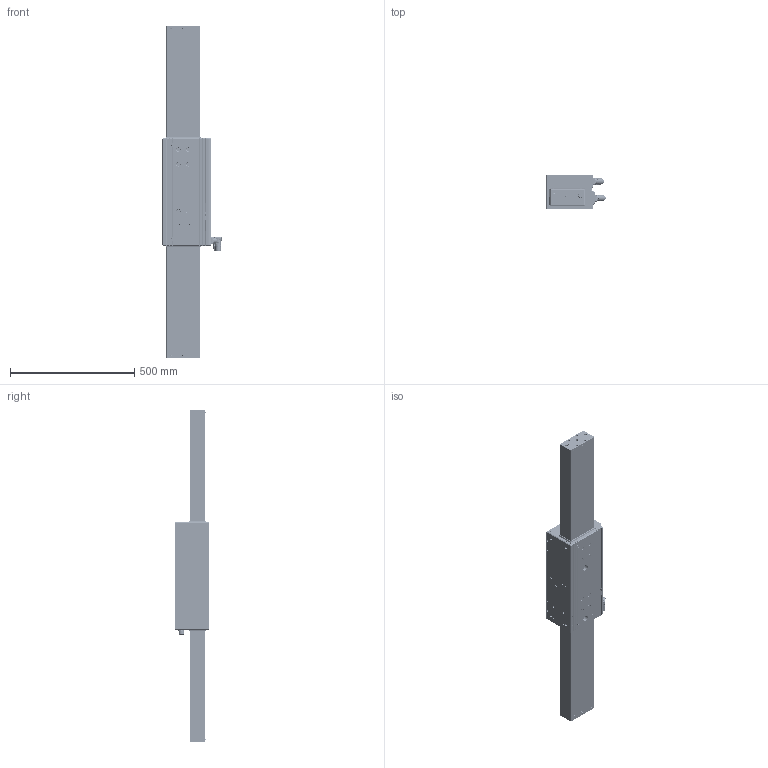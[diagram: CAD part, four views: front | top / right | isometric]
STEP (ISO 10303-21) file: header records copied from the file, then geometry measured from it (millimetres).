
FILE_DESCRIPTION((''),'2;1');
FILE_NAME('LDAT-100-DUMMY_ASM','2012-05-17T',('als'),('Rockwell Automation'),'PRO/ENGINEER BY PARAMETRIC TECHNOLOGY CORPORATION, 2007390','PRO/ENGINEER BY PARAMETRIC TECHNOLOGY CORPORATION, 2007390','');
FILE_SCHEMA(('CONFIG_CONTROL_DESIGN'));
Length unit declared in the file: millimetre
Products named in the file (32): B627631-100-A_AF2; D627756-100-300_ASM; D627768-100; D627769-100; B627834; D627739-100; LDAT-100-SLIDER-DUMMY-1300; B627686-100; A805843-1; A805843-2; A805843-4; A805843-3_ASM; A805843-5; A805843-6; A805843_ASM; A805844-1; A805844-2; A805844-3; A805844_ASM; B805901-E1-NT_ASM; DIN7991-12_9-8X22-ZP; 627795; 627815; DIN912-3X8; DIN912-2_5X12; 627849; DIN7991-12_9-5X30-ZP; DIN912-12X50; DIN912-10X16; B627690-100; ISO7380-3X6; LDAT-100-DUMMY_ASM
Assembly tree (93 placements, depth 4):
  LDAT-100-DUMMY_ASM
    D627756-100-300_ASM
      B627631-100-A_AF2
    D627768-100
    D627769-100
    B627834
    D627739-100  x2
    LDAT-100-SLIDER-DUMMY-1300
    B627686-100  x2
    A805843_ASM
      A805843-1
      A805843-2
      A805843-3_ASM
        A805843-4
      A805843-5  x4
      A805843-6  x2
    B805901-E1-NT_ASM
      A805844_ASM
        A805844-1
        A805844-2
        A805844-3
    DIN7991-12_9-8X22-ZP  x8
    627795  x4
    627815  x3
    DIN912-3X8  x14
    DIN912-2_5X12  x8
    627849  x6
    DIN7991-12_9-5X30-ZP  x10
    DIN912-12X50  x4
    DIN912-10X16  x2
    B627690-100  x2
    ISO7380-3X6  x6
Bounding box: 239.05 x 140 x 1338.1 mm (x, y, z)
Volume: 15863086.4 mm3; surface area: 1481084.5 mm2
Topology: 88 solids, 103 shells, 6381 faces, 17549 edges, 11463 vertices
Faces by surface type: cylinder 2550, plane 1746, bspline 834, cone 587, torus 542, sphere 117, extrusion 3, revolution 2
Entity records: 237871 total; most frequent: CARTESIAN_POINT 119887, ORIENTED_EDGE 26826, DIRECTION 21967, EDGE_CURVE 13438, AXIS2_PLACEMENT_3D 8957, VERTEX_POINT 8931, EDGE_LOOP 5091, CIRCLE 4919
